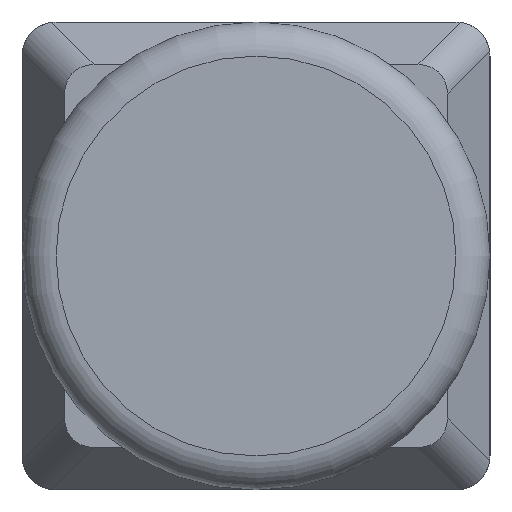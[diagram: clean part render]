
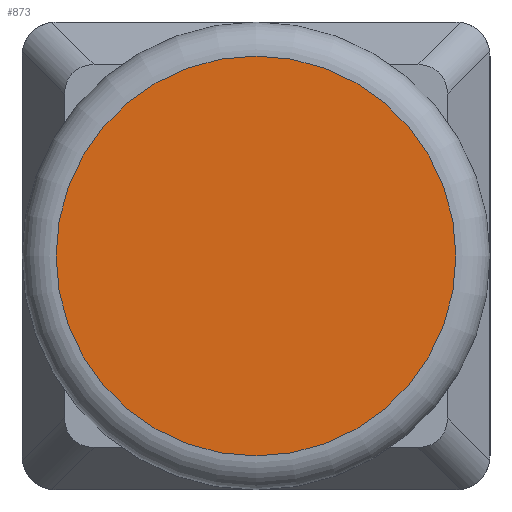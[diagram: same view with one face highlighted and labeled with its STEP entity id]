
A CAD part, left-side view. The second image highlights one B-rep face of the part: STEP entity #873.
In plain terms, the highlighted planar face has unit normal (-1, 0, 0).
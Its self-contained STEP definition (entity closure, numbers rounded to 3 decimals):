
#223=ORIENTED_EDGE('',*,*,#479,.T.);
#479=EDGE_CURVE('',#607,#607,#695,.T.);
#607=VERTEX_POINT('',#1394);
#695=CIRCLE('',#981,0.47);
#719=EDGE_LOOP('',(#223));
#781=FACE_BOUND('',#719,.T.);
#843=PLANE('',#980);
#873=ADVANCED_FACE('',(#781),#843,.T.);
#980=AXIS2_PLACEMENT_3D('',#1392,#1096,#1097);
#981=AXIS2_PLACEMENT_3D('',#1393,#1098,#1099);
#1096=DIRECTION('',(-1.,0.,0.));
#1097=DIRECTION('',(0.,0.,1.));
#1098=DIRECTION('',(-1.,0.,0.));
#1099=DIRECTION('',(0.,0.,1.));
#1392=CARTESIAN_POINT('',(-0.92,0.,0.));
#1393=CARTESIAN_POINT('',(-0.92,0.,0.));
#1394=CARTESIAN_POINT('',(-0.92,0.,0.47));
